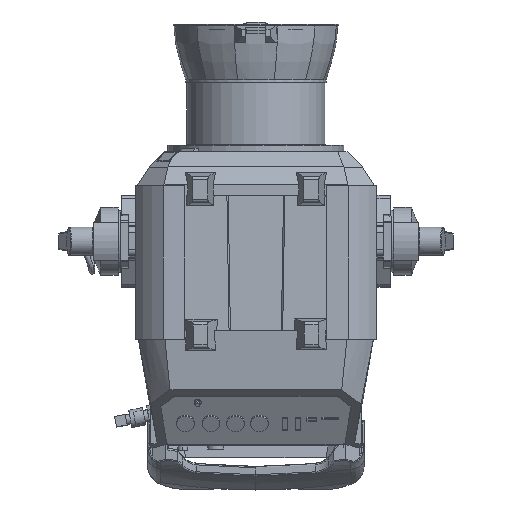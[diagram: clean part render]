
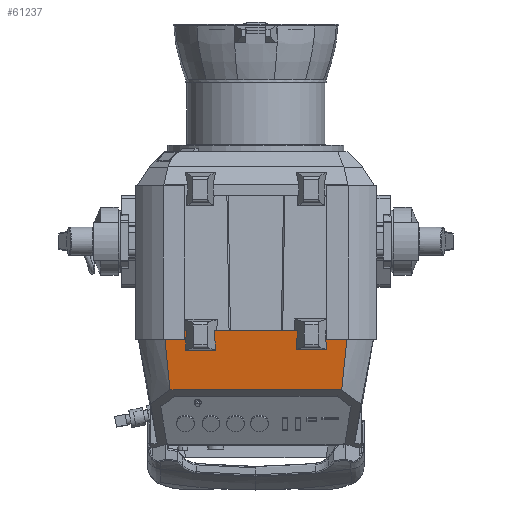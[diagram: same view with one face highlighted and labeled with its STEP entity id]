
A CAD part, front view. The second image highlights one B-rep face of the part: STEP entity #61237.
In plain terms, the highlighted planar face has unit normal (0, -0.994, -0.106).
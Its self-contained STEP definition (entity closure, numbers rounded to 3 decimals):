
#130 = VECTOR ( 'NONE', #20988, 1000. ) ;
#671 = EDGE_CURVE ( 'NONE', #72139, #30126, #73818, .T. ) ;
#1121 = VERTEX_POINT ( 'NONE', #31446 ) ;
#2647 = LINE ( 'NONE', #52490, #8364 ) ;
#2897 = VERTEX_POINT ( 'NONE', #55666 ) ;
#3516 = EDGE_CURVE ( 'NONE', #42688, #72139, #50750, .T. ) ;
#3637 = DIRECTION ( 'NONE',  ( -0.06, -0.105, 0.993 ) ) ;
#3901 = LINE ( 'NONE', #3912, #13433 ) ;
#3912 = CARTESIAN_POINT ( 'NONE',  ( -46.587, -140.283, -164.746 ) ) ;
#4064 = ORIENTED_EDGE ( 'NONE', *, *, #57513, .F. ) ;
#4507 = LINE ( 'NONE', #22424, #51178 ) ;
#4833 = CARTESIAN_POINT ( 'NONE',  ( 80.158, -138.984, -176.982 ) ) ;
#6611 = DIRECTION ( 'NONE',  ( 1., 0., 0. ) ) ;
#8364 = VECTOR ( 'NONE', #10394, 1000. ) ;
#9600 = VERTEX_POINT ( 'NONE', #42117 ) ;
#10394 = DIRECTION ( 'NONE',  ( -0.06, -0.105, 0.993 ) ) ;
#11962 = DIRECTION ( 'NONE',  ( -1., 0., 0. ) ) ;
#12092 = ORIENTED_EDGE ( 'NONE', *, *, #49426, .F. ) ;
#12096 = VERTEX_POINT ( 'NONE', #21681 ) ;
#12168 = AXIS2_PLACEMENT_3D ( 'NONE', #61713, #31390, #37488 ) ;
#12519 = CARTESIAN_POINT ( 'NONE',  ( 104.215, -140.239, -165.167 ) ) ;
#13303 = ORIENTED_EDGE ( 'NONE', *, *, #43466, .T. ) ;
#13433 = VECTOR ( 'NONE', #3637, 1000. ) ;
#13718 = LINE ( 'NONE', #43644, #40422 ) ;
#14283 = CARTESIAN_POINT ( 'NONE',  ( 104.214, -138.93, -177.492 ) ) ;
#14457 = VERTEX_POINT ( 'NONE', #23785 ) ;
#15529 = VECTOR ( 'NONE', #70617, 1000. ) ;
#15658 = VECTOR ( 'NONE', #29977, 1000. ) ;
#15865 = LINE ( 'NONE', #31648, #68349 ) ;
#16091 = CARTESIAN_POINT ( 'NONE',  ( -100.247, -137.048, -195.215 ) ) ;
#16570 = LINE ( 'NONE', #71769, #15658 ) ;
#17807 = EDGE_CURVE ( 'NONE', #35642, #2897, #32502, .T. ) ;
#18065 = CARTESIAN_POINT ( 'NONE',  ( 104.214, -138.984, -176.982 ) ) ;
#18079 = VERTEX_POINT ( 'NONE', #23305 ) ;
#20198 = PLANE ( 'NONE',  #12168 ) ;
#20988 = DIRECTION ( 'NONE',  ( 0., 0.106, -0.994 ) ) ;
#21681 = CARTESIAN_POINT ( 'NONE',  ( 47.141, -141.248, -155.66 ) ) ;
#21939 = DIRECTION ( 'NONE',  ( 0.099, 0.105, -0.99 ) ) ;
#22424 = CARTESIAN_POINT ( 'NONE',  ( 104.214, -140.238, -165.172 ) ) ;
#23305 = CARTESIAN_POINT ( 'NONE',  ( -97.483, -134.122, -222.771 ) ) ;
#23785 = CARTESIAN_POINT ( 'NONE',  ( -47.141, -141.248, -155.66 ) ) ;
#24958 = ORIENTED_EDGE ( 'NONE', *, *, #671, .T. ) ;
#24963 = DIRECTION ( 'NONE',  ( -0.099, 0.105, -0.99 ) ) ;
#26536 = CARTESIAN_POINT ( 'NONE',  ( -78.859, -141.248, -155.66 ) ) ;
#26786 = ORIENTED_EDGE ( 'NONE', *, *, #68679, .T. ) ;
#27497 = ORIENTED_EDGE ( 'NONE', *, *, #17807, .F. ) ;
#27715 = EDGE_CURVE ( 'NONE', #35642, #9600, #60451, .T. ) ;
#29311 = CARTESIAN_POINT ( 'NONE',  ( -78.189, -142.415, -144.67 ) ) ;
#29977 = DIRECTION ( 'NONE',  ( -1., 0., 0. ) ) ;
#30005 = VERTEX_POINT ( 'NONE', #67871 ) ;
#30126 = VERTEX_POINT ( 'NONE', #26536 ) ;
#30599 = FACE_OUTER_BOUND ( 'NONE', #45040, .T. ) ;
#31390 = DIRECTION ( 'NONE',  ( 0., -0.994, -0.106 ) ) ;
#31446 = CARTESIAN_POINT ( 'NONE',  ( -103.261, -140.238, -165.172 ) ) ;
#31648 = CARTESIAN_POINT ( 'NONE',  ( 100.247, -137.048, -195.215 ) ) ;
#31733 = LINE ( 'NONE', #46671, #15529 ) ;
#32502 = LINE ( 'NONE', #33240, #130 ) ;
#33157 = VECTOR ( 'NONE', #55098, 1000. ) ;
#33240 = CARTESIAN_POINT ( 'NONE',  ( 80.501, -141.248, -155.662 ) ) ;
#34002 = ORIENTED_EDGE ( 'NONE', *, *, #51821, .T. ) ;
#34061 = LINE ( 'NONE', #12519, #33157 ) ;
#34843 = ORIENTED_EDGE ( 'NONE', *, *, #50832, .F. ) ;
#35642 = VERTEX_POINT ( 'NONE', #63230 ) ;
#35824 = DIRECTION ( 'NONE',  ( 0.06, -0.105, 0.993 ) ) ;
#35872 = VERTEX_POINT ( 'NONE', #54380 ) ;
#36631 = CARTESIAN_POINT ( 'NONE',  ( -80.501, -141.248, -155.66 ) ) ;
#37488 = DIRECTION ( 'NONE',  ( -1., 0., 0. ) ) ;
#37498 = CARTESIAN_POINT ( 'NONE',  ( 104.214, -134.122, -222.771 ) ) ;
#38007 = EDGE_CURVE ( 'NONE', #18079, #30005, #54234, .T. ) ;
#38033 = VECTOR ( 'NONE', #6611, 1000. ) ;
#39287 = ORIENTED_EDGE ( 'NONE', *, *, #53273, .F. ) ;
#39750 = VERTEX_POINT ( 'NONE', #36631 ) ;
#40422 = VECTOR ( 'NONE', #51933, 1000. ) ;
#40991 = EDGE_CURVE ( 'NONE', #2897, #35872, #4507, .T. ) ;
#41727 = VECTOR ( 'NONE', #35824, 1000. ) ;
#42117 = CARTESIAN_POINT ( 'NONE',  ( 78.859, -141.248, -155.66 ) ) ;
#42621 = LINE ( 'NONE', #65445, #41727 ) ;
#42688 = VERTEX_POINT ( 'NONE', #69806 ) ;
#43466 = EDGE_CURVE ( 'NONE', #56120, #12096, #42621, .T. ) ;
#43644 = CARTESIAN_POINT ( 'NONE',  ( -80.501, -141.25, -155.643 ) ) ;
#44185 = ORIENTED_EDGE ( 'NONE', *, *, #40991, .F. ) ;
#45040 = EDGE_LOOP ( 'NONE', ( #27497, #48569, #4064, #51620, #13303, #34002, #39287, #69489, #24958, #26786, #12092, #34843, #48539, #56577, #48778, #44185 ) ) ;
#45120 = VECTOR ( 'NONE', #63602, 1000. ) ;
#46671 = CARTESIAN_POINT ( 'NONE',  ( 0., -141.248, -155.66 ) ) ;
#47696 = DIRECTION ( 'NONE',  ( 0.06, -0.105, 0.993 ) ) ;
#48065 = EDGE_CURVE ( 'NONE', #35872, #30005, #15865, .T. ) ;
#48539 = ORIENTED_EDGE ( 'NONE', *, *, #62712, .T. ) ;
#48569 = ORIENTED_EDGE ( 'NONE', *, *, #27715, .T. ) ;
#48778 = ORIENTED_EDGE ( 'NONE', *, *, #48065, .F. ) ;
#49426 = EDGE_CURVE ( 'NONE', #58553, #39750, #13718, .T. ) ;
#50624 = VERTEX_POINT ( 'NONE', #4833 ) ;
#50750 = LINE ( 'NONE', #14283, #56476 ) ;
#50832 = EDGE_CURVE ( 'NONE', #1121, #58553, #34061, .T. ) ;
#51178 = VECTOR ( 'NONE', #65051, 1000. ) ;
#51620 = ORIENTED_EDGE ( 'NONE', *, *, #61126, .T. ) ;
#51821 = EDGE_CURVE ( 'NONE', #12096, #14457, #16570, .T. ) ;
#51933 = DIRECTION ( 'NONE',  ( 0., -0.106, 0.994 ) ) ;
#52490 = CARTESIAN_POINT ( 'NONE',  ( 78.952, -141.086, -157.182 ) ) ;
#53273 = EDGE_CURVE ( 'NONE', #42688, #14457, #3901, .T. ) ;
#54234 = LINE ( 'NONE', #37498, #38033 ) ;
#54380 = CARTESIAN_POINT ( 'NONE',  ( 103.261, -140.238, -165.172 ) ) ;
#55098 = DIRECTION ( 'NONE',  ( 1., 0., 0. ) ) ;
#55666 = CARTESIAN_POINT ( 'NONE',  ( 80.501, -140.238, -165.171 ) ) ;
#56120 = VERTEX_POINT ( 'NONE', #63391 ) ;
#56476 = VECTOR ( 'NONE', #63275, 1000. ) ;
#56577 = ORIENTED_EDGE ( 'NONE', *, *, #38007, .T. ) ;
#57513 = EDGE_CURVE ( 'NONE', #50624, #9600, #2647, .T. ) ;
#58553 = VERTEX_POINT ( 'NONE', #71298 ) ;
#60451 = LINE ( 'NONE', #68671, #45120 ) ;
#61075 = LINE ( 'NONE', #18065, #75323 ) ;
#61126 = EDGE_CURVE ( 'NONE', #50624, #56120, #61075, .T. ) ;
#61237 = ADVANCED_FACE ( 'NONE', ( #30599 ), #20198, .T. ) ;
#61562 = VECTOR ( 'NONE', #21939, 1000. ) ;
#61713 = CARTESIAN_POINT ( 'NONE',  ( 104.214, -141.248, -155.66 ) ) ;
#62712 = EDGE_CURVE ( 'NONE', #1121, #18079, #69198, .T. ) ;
#63230 = CARTESIAN_POINT ( 'NONE',  ( 80.501, -141.248, -155.66 ) ) ;
#63275 = DIRECTION ( 'NONE',  ( -1., 0., 0. ) ) ;
#63391 = CARTESIAN_POINT ( 'NONE',  ( 45.842, -138.984, -176.982 ) ) ;
#63602 = DIRECTION ( 'NONE',  ( -1., 0., 0. ) ) ;
#65051 = DIRECTION ( 'NONE',  ( 1., 0., 0. ) ) ;
#65445 = CARTESIAN_POINT ( 'NONE',  ( 47.35, -141.612, -152.234 ) ) ;
#67871 = CARTESIAN_POINT ( 'NONE',  ( 97.483, -134.122, -222.771 ) ) ;
#68349 = VECTOR ( 'NONE', #24963, 1000. ) ;
#68671 = CARTESIAN_POINT ( 'NONE',  ( 0., -141.248, -155.66 ) ) ;
#68679 = EDGE_CURVE ( 'NONE', #30126, #39750, #31733, .T. ) ;
#69198 = LINE ( 'NONE', #16091, #61562 ) ;
#69489 = ORIENTED_EDGE ( 'NONE', *, *, #3516, .T. ) ;
#69806 = CARTESIAN_POINT ( 'NONE',  ( -45.811, -138.93, -177.492 ) ) ;
#70617 = DIRECTION ( 'NONE',  ( -1., 0., 0. ) ) ;
#71298 = CARTESIAN_POINT ( 'NONE',  ( -80.501, -140.238, -165.171 ) ) ;
#71769 = CARTESIAN_POINT ( 'NONE',  ( 0., -141.248, -155.66 ) ) ;
#72139 = VERTEX_POINT ( 'NONE', #74377 ) ;
#73818 = LINE ( 'NONE', #29311, #78527 ) ;
#74377 = CARTESIAN_POINT ( 'NONE',  ( -80.189, -138.93, -177.492 ) ) ;
#75323 = VECTOR ( 'NONE', #11962, 1000. ) ;
#78527 = VECTOR ( 'NONE', #47696, 1000. ) ;
